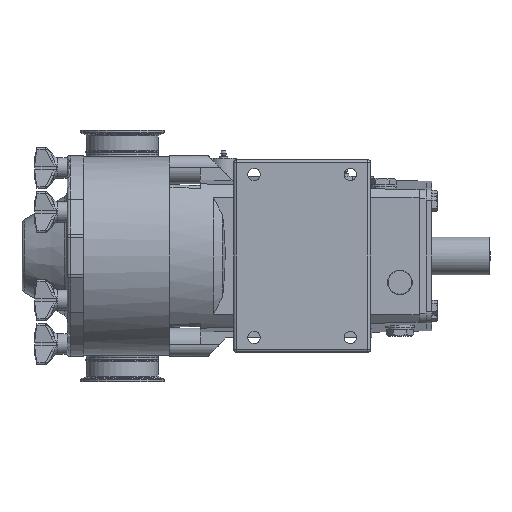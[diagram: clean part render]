
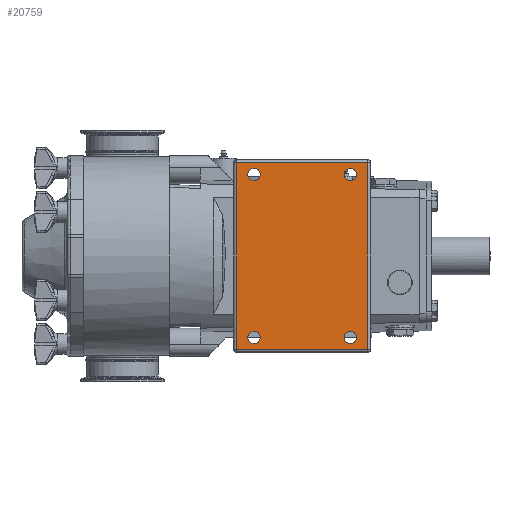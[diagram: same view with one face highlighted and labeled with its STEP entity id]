
A CAD part, front view. The second image highlights one B-rep face of the part: STEP entity #20759.
In plain terms, the highlighted planar face has unit normal (0, -1, 0).
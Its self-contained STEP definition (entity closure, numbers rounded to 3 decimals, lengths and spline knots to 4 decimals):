
#736=FACE_BOUND('',#3745,.T.);
#737=FACE_BOUND('',#3746,.T.);
#738=FACE_BOUND('',#3747,.T.);
#739=FACE_BOUND('',#3748,.T.);
#1332=PLANE('',#22157);
#2470=FACE_OUTER_BOUND('',#3744,.T.);
#3744=EDGE_LOOP('',(#18107,#18108,#18109,#18110));
#3745=EDGE_LOOP('',(#18111));
#3746=EDGE_LOOP('',(#18112));
#3747=EDGE_LOOP('',(#18113));
#3748=EDGE_LOOP('',(#18114));
#5330=LINE('',#41729,#6992);
#5333=LINE('',#41736,#6995);
#5342=LINE('',#41765,#7004);
#5977=LINE('',#45009,#7639);
#6992=VECTOR('',#24969,5.64);
#6995=VECTOR('',#24976,5.64);
#7004=VECTOR('',#25009,8.01);
#7639=VECTOR('',#26300,8.01);
#8284=CIRCLE('',#21809,0.2656);
#8286=CIRCLE('',#21812,0.2656);
#8290=CIRCLE('',#21819,0.2656);
#8292=CIRCLE('',#21822,0.2656);
#9269=VERTEX_POINT('',#40020);
#9273=VERTEX_POINT('',#40029);
#9689=VERTEX_POINT('',#41714);
#9691=VERTEX_POINT('',#41720);
#9694=VERTEX_POINT('',#41727);
#9695=VERTEX_POINT('',#41732);
#9697=VERTEX_POINT('',#41738);
#9699=VERTEX_POINT('',#41744);
#12172=EDGE_CURVE('',#9689,#9689,#8284,.T.);
#12175=EDGE_CURVE('',#9691,#9691,#8286,.T.);
#12179=EDGE_CURVE('',#9273,#9694,#5330,.T.);
#12183=EDGE_CURVE('',#9695,#9269,#5333,.F.);
#12184=EDGE_CURVE('',#9697,#9697,#8290,.T.);
#12187=EDGE_CURVE('',#9699,#9699,#8292,.T.);
#12198=EDGE_CURVE('',#9269,#9273,#5342,.T.);
#12939=EDGE_CURVE('',#9694,#9695,#5977,.F.);
#18107=ORIENTED_EDGE('',*,*,#12939,.T.);
#18108=ORIENTED_EDGE('',*,*,#12183,.T.);
#18109=ORIENTED_EDGE('',*,*,#12198,.T.);
#18110=ORIENTED_EDGE('',*,*,#12179,.T.);
#18111=ORIENTED_EDGE('',*,*,#12175,.F.);
#18112=ORIENTED_EDGE('',*,*,#12172,.F.);
#18113=ORIENTED_EDGE('',*,*,#12187,.F.);
#18114=ORIENTED_EDGE('',*,*,#12184,.F.);
#20759=ADVANCED_FACE('',(#2470,#736,#737,#738,#739),#1332,.T.);
#21809=AXIS2_PLACEMENT_3D('',#41715,#24953,#24954);
#21812=AXIS2_PLACEMENT_3D('',#41721,#24960,#24961);
#21819=AXIS2_PLACEMENT_3D('',#41739,#24979,#24980);
#21822=AXIS2_PLACEMENT_3D('',#41745,#24986,#24987);
#22157=AXIS2_PLACEMENT_3D('',#45008,#26298,#26299);
#24953=DIRECTION('center_axis',(0.,-1.,0.));
#24954=DIRECTION('ref_axis',(-1.,0.,0.));
#24960=DIRECTION('center_axis',(0.,-1.,0.));
#24961=DIRECTION('ref_axis',(-1.,0.,0.));
#24969=DIRECTION('',(1.,0.,0.));
#24976=DIRECTION('',(1.,0.,0.));
#24979=DIRECTION('center_axis',(0.,-1.,0.));
#24980=DIRECTION('ref_axis',(-1.,0.,0.));
#24986=DIRECTION('center_axis',(0.,-1.,0.));
#24987=DIRECTION('ref_axis',(-1.,0.,0.));
#25009=DIRECTION('',(0.,0.,-1.));
#26298=DIRECTION('center_axis',(0.,-1.,0.));
#26299=DIRECTION('ref_axis',(0.,0.,-1.));
#26300=DIRECTION('',(0.,0.,-1.));
#40020=CARTESIAN_POINT('',(2.865,-7.31,4.005));
#40029=CARTESIAN_POINT('',(2.865,-7.31,-4.005));
#41714=CARTESIAN_POINT('',(3.3544,-7.31,-3.5));
#41715=CARTESIAN_POINT('Origin',(3.62,-7.31,-3.5));
#41720=CARTESIAN_POINT('',(7.4794,-7.31,-3.5));
#41721=CARTESIAN_POINT('Origin',(7.745,-7.31,-3.5));
#41727=CARTESIAN_POINT('',(8.505,-7.31,-4.005));
#41729=CARTESIAN_POINT('',(2.865,-7.31,-4.005));
#41732=CARTESIAN_POINT('',(8.505,-7.31,4.005));
#41736=CARTESIAN_POINT('',(2.865,-7.31,4.005));
#41738=CARTESIAN_POINT('',(3.3544,-7.31,3.5));
#41739=CARTESIAN_POINT('Origin',(3.62,-7.31,3.5));
#41744=CARTESIAN_POINT('',(7.4794,-7.31,3.5));
#41745=CARTESIAN_POINT('Origin',(7.745,-7.31,3.5));
#41765=CARTESIAN_POINT('',(2.865,-7.31,4.005));
#45008=CARTESIAN_POINT('Origin',(2.745,-7.31,4.125));
#45009=CARTESIAN_POINT('',(8.505,-7.31,4.005));
